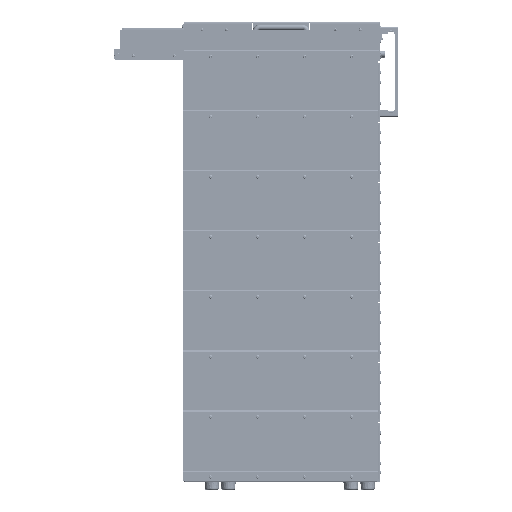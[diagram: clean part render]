
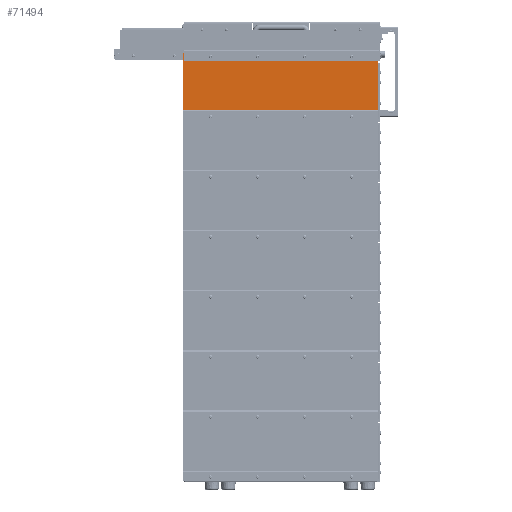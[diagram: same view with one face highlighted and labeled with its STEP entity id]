
A CAD part, left-side view. The second image highlights one B-rep face of the part: STEP entity #71494.
In plain terms, the highlighted planar face has unit normal (-1, 0, 0).
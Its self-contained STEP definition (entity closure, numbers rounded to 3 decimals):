
#71494=ADVANCED_FACE('',(#160222,#160223,#160224,#160225,#160226),#160227,.T.);
#160222=FACE_OUTER_BOUND('',#279566,.T.);
#160223=FACE_BOUND('',#279567,.T.);
#160224=FACE_BOUND('',#279568,.T.);
#160225=FACE_BOUND('',#279569,.T.);
#160226=FACE_BOUND('',#279570,.T.);
#160227=PLANE('',#279571);
#279566=EDGE_LOOP('',(#471481,#471482,#471483,#471484,#471485,#471486,#471487,#471488));
#279567=EDGE_LOOP('',(#471489,#471490));
#279568=EDGE_LOOP('',(#471491,#471492));
#279569=EDGE_LOOP('',(#471493,#471494));
#279570=EDGE_LOOP('',(#471495,#471496));
#279571=AXIS2_PLACEMENT_3D('',#471497,#471498,#471499);
#471481=ORIENTED_EDGE('',*,*,#675246,.F.);
#471482=ORIENTED_EDGE('',*,*,#675254,.T.);
#471483=ORIENTED_EDGE('',*,*,#675265,.F.);
#471484=ORIENTED_EDGE('',*,*,#675241,.F.);
#471485=ORIENTED_EDGE('',*,*,#675289,.T.);
#471486=ORIENTED_EDGE('',*,*,#675307,.F.);
#471487=ORIENTED_EDGE('',*,*,#675308,.F.);
#471488=ORIENTED_EDGE('',*,*,#675248,.F.);
#471489=ORIENTED_EDGE('',*,*,#675224,.T.);
#471490=ORIENTED_EDGE('',*,*,#675291,.T.);
#471491=ORIENTED_EDGE('',*,*,#675219,.T.);
#471492=ORIENTED_EDGE('',*,*,#675293,.T.);
#471493=ORIENTED_EDGE('',*,*,#675214,.T.);
#471494=ORIENTED_EDGE('',*,*,#675295,.T.);
#471495=ORIENTED_EDGE('',*,*,#675209,.T.);
#471496=ORIENTED_EDGE('',*,*,#675297,.T.);
#471497=CARTESIAN_POINT('',(546.234,604.229,24.048));
#471498=DIRECTION('',(-1.0,0.,0.));
#471499=DIRECTION('',(0.,0.,1.0));
#675209=EDGE_CURVE('',#821547,#821544,#821548,.T.);
#675214=EDGE_CURVE('',#821556,#821553,#821557,.T.);
#675219=EDGE_CURVE('',#821565,#821562,#821566,.T.);
#675224=EDGE_CURVE('',#821574,#821571,#821575,.T.);
#675241=EDGE_CURVE('',#821603,#821599,#821605,.T.);
#675246=EDGE_CURVE('',#821612,#821608,#821614,.T.);
#675248=EDGE_CURVE('',#821608,#821616,#821617,.T.);
#675254=EDGE_CURVE('',#821612,#821624,#821626,.T.);
#675265=EDGE_CURVE('',#821599,#821624,#821639,.T.);
#675289=EDGE_CURVE('',#821603,#821669,#821671,.T.);
#675291=EDGE_CURVE('',#821571,#821574,#821673,.T.);
#675293=EDGE_CURVE('',#821562,#821565,#821675,.T.);
#675295=EDGE_CURVE('',#821553,#821556,#821677,.T.);
#675297=EDGE_CURVE('',#821544,#821547,#821679,.T.);
#675307=EDGE_CURVE('',#821689,#821669,#821690,.T.);
#675308=EDGE_CURVE('',#821616,#821689,#821691,.T.);
#821544=VERTEX_POINT('',#1032841);
#821547=VERTEX_POINT('',#1032845);
#821548=CIRCLE('',#1032846,2.5);
#821553=VERTEX_POINT('',#1032852);
#821556=VERTEX_POINT('',#1032856);
#821557=CIRCLE('',#1032857,2.5);
#821562=VERTEX_POINT('',#1032863);
#821565=VERTEX_POINT('',#1032867);
#821566=CIRCLE('',#1032868,2.5);
#821571=VERTEX_POINT('',#1032874);
#821574=VERTEX_POINT('',#1032878);
#821575=CIRCLE('',#1032879,2.5);
#821599=VERTEX_POINT('',#1032908);
#821603=VERTEX_POINT('',#1032913);
#821605=CIRCLE('',#1032916,1.457);
#821608=VERTEX_POINT('',#1032919);
#821612=VERTEX_POINT('',#1032924);
#821614=CIRCLE('',#1032927,2.538);
#821616=VERTEX_POINT('',#1032929);
#821617=CIRCLE('',#1032930,2.538);
#821624=VERTEX_POINT('',#1032939);
#821626=LINE('',#1032942,#1032943);
#821639=CIRCLE('',#1032959,1.457);
#821669=VERTEX_POINT('',#1032998);
#821671=LINE('',#1033001,#1033002);
#821673=CIRCLE('',#1033004,2.5);
#821675=CIRCLE('',#1033006,2.5);
#821677=CIRCLE('',#1033008,2.5);
#821679=CIRCLE('',#1033010,2.5);
#821689=VERTEX_POINT('',#1033020);
#821690=LINE('',#1033021,#1033022);
#821691=LINE('',#1033023,#1033024);
#1032841=CARTESIAN_POINT('',(546.234,974.979,79.473));
#1032845=CARTESIAN_POINT('',(546.234,979.979,79.473));
#1032846=AXIS2_PLACEMENT_3D('',#1232323,#1232324,#1232325);
#1032852=CARTESIAN_POINT('',(546.234,870.559,79.473));
#1032856=CARTESIAN_POINT('',(546.234,875.559,79.473));
#1032857=AXIS2_PLACEMENT_3D('',#1232331,#1232332,#1232333);
#1032863=CARTESIAN_POINT('',(546.234,766.149,79.473));
#1032867=CARTESIAN_POINT('',(546.234,771.149,79.473));
#1032868=AXIS2_PLACEMENT_3D('',#1232339,#1232340,#1232341);
#1032874=CARTESIAN_POINT('',(546.234,661.729,79.473));
#1032878=CARTESIAN_POINT('',(546.234,666.729,79.473));
#1032879=AXIS2_PLACEMENT_3D('',#1232347,#1232348,#1232349);
#1032908=CARTESIAN_POINT('',(546.234,1037.053,87.296));
#1032913=CARTESIAN_POINT('',(546.234,1037.479,86.266));
#1032916=AXIS2_PLACEMENT_3D('',#1232375,#1232376,#1232377);
#1032919=CARTESIAN_POINT('',(546.234,604.973,86.979));
#1032924=CARTESIAN_POINT('',(546.234,606.767,87.723));
#1032927=AXIS2_PLACEMENT_3D('',#1232383,#1232384,#1232385);
#1032929=CARTESIAN_POINT('',(546.234,604.229,85.185));
#1032930=AXIS2_PLACEMENT_3D('',#1232386,#1232387,#1232388);
#1032939=CARTESIAN_POINT('',(546.234,1036.023,87.723));
#1032942=CARTESIAN_POINT('',(546.234,604.229,87.723));
#1032943=VECTOR('',#1232395,1.0);
#1032959=AXIS2_PLACEMENT_3D('',#1232414,#1232415,#1232416);
#1032998=CARTESIAN_POINT('',(546.234,1037.479,-39.627));
#1033001=CARTESIAN_POINT('',(546.234,1037.479,87.723));
#1033002=VECTOR('',#1232451,1.0);
#1033004=AXIS2_PLACEMENT_3D('',#1232452,#1232453,#1232454);
#1033006=AXIS2_PLACEMENT_3D('',#1232455,#1232456,#1232457);
#1033008=AXIS2_PLACEMENT_3D('',#1232458,#1232459,#1232460);
#1033010=AXIS2_PLACEMENT_3D('',#1232461,#1232462,#1232463);
#1033020=CARTESIAN_POINT('',(546.234,604.229,-39.627));
#1033021=CARTESIAN_POINT('',(546.234,604.229,-39.627));
#1033022=VECTOR('',#1232476,1.0);
#1033023=CARTESIAN_POINT('',(546.234,604.229,87.723));
#1033024=VECTOR('',#1232477,1.0);
#1232323=CARTESIAN_POINT('',(546.234,977.479,79.473));
#1232324=DIRECTION('',(1.0,0.,0.));
#1232325=DIRECTION('',(0.,-1.0,0.));
#1232331=CARTESIAN_POINT('',(546.234,873.059,79.473));
#1232332=DIRECTION('',(1.0,0.,0.));
#1232333=DIRECTION('',(0.,-1.0,0.));
#1232339=CARTESIAN_POINT('',(546.234,768.649,79.473));
#1232340=DIRECTION('',(1.0,0.,0.));
#1232341=DIRECTION('',(0.,-1.0,0.));
#1232347=CARTESIAN_POINT('',(546.234,664.229,79.473));
#1232348=DIRECTION('',(1.0,0.,0.));
#1232349=DIRECTION('',(0.,-1.0,0.));
#1232375=CARTESIAN_POINT('',(546.234,1036.023,86.266));
#1232376=DIRECTION('',(1.0,0.,0.));
#1232377=DIRECTION('',(0.,0.707,0.707));
#1232383=CARTESIAN_POINT('',(546.234,606.767,85.185));
#1232384=DIRECTION('',(1.0,0.,0.));
#1232385=DIRECTION('',(0.,-0.707,0.707));
#1232386=CARTESIAN_POINT('',(546.234,606.767,85.185));
#1232387=DIRECTION('',(1.0,0.,0.));
#1232388=DIRECTION('',(0.,-0.707,0.707));
#1232395=DIRECTION('',(0.0,1.0,0.0));
#1232414=CARTESIAN_POINT('',(546.234,1036.023,86.266));
#1232415=DIRECTION('',(1.0,0.,0.));
#1232416=DIRECTION('',(0.,0.707,0.707));
#1232451=DIRECTION('',(0.0,0.0,-1.0));
#1232452=CARTESIAN_POINT('',(546.234,664.229,79.473));
#1232453=DIRECTION('',(1.0,0.,0.));
#1232454=DIRECTION('',(0.,-1.0,0.));
#1232455=CARTESIAN_POINT('',(546.234,768.649,79.473));
#1232456=DIRECTION('',(1.0,0.,0.));
#1232457=DIRECTION('',(0.,-1.0,0.));
#1232458=CARTESIAN_POINT('',(546.234,873.059,79.473));
#1232459=DIRECTION('',(1.0,0.,0.));
#1232460=DIRECTION('',(0.,-1.0,0.));
#1232461=CARTESIAN_POINT('',(546.234,977.479,79.473));
#1232462=DIRECTION('',(1.0,0.,0.));
#1232463=DIRECTION('',(0.,-1.0,0.));
#1232476=DIRECTION('',(0.0,1.0,0.0));
#1232477=DIRECTION('',(0.0,0.0,-1.0));
